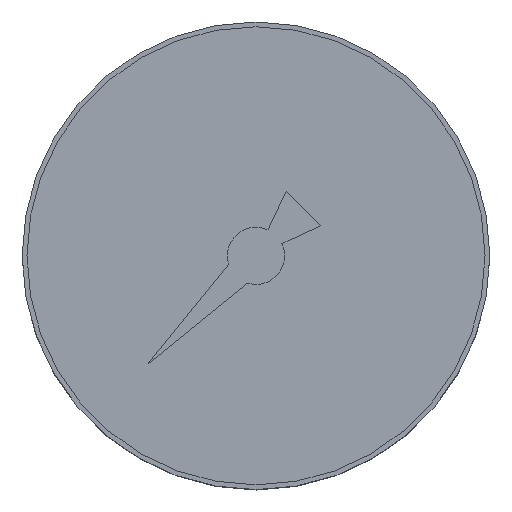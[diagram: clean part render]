
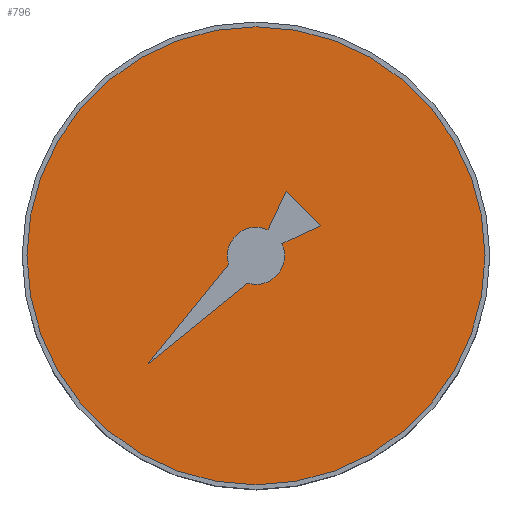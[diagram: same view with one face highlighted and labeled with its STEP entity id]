
A CAD part, top view. The second image highlights one B-rep face of the part: STEP entity #796.
In plain terms, the highlighted planar face has unit normal (0, 0, 1).
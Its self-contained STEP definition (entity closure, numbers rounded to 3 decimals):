
#223=CARTESIAN_POINT('',(0.,0.,44.));
#224=DIRECTION('',(0.,0.,1.));
#225=DIRECTION('',(0.,1.,0.));
#226=AXIS2_PLACEMENT_3D('',#223,#224,#225);
#232=CARTESIAN_POINT('',(0.,0.,44.));
#233=DIRECTION('',(0.,0.,-1.));
#234=DIRECTION('',(0.,1.,0.));
#235=AXIS2_PLACEMENT_3D('',#232,#233,#234);
#241=DIRECTION('',(-0.707,0.707,0.));
#242=VECTOR('',#241,5.096);
#243=CARTESIAN_POINT('',(6.751,3.148,44.));
#244=LINE('',#243,#242);
#245=DIRECTION('',(-0.423,-0.906,0.));
#246=VECTOR('',#245,4.449);
#247=CARTESIAN_POINT('',(3.148,6.751,44.));
#248=LINE('',#247,#246);
#249=CARTESIAN_POINT('',(0.,0.,44.));
#250=DIRECTION('',(0.,0.,1.));
#251=DIRECTION('',(0.423,0.906,0.));
#252=AXIS2_PLACEMENT_3D('',#249,#250,#251);
#254=DIRECTION('',(-0.629,-0.777,0.));
#255=VECTOR('',#254,13.422);
#256=CARTESIAN_POINT('',(-2.867,-0.883,44.));
#257=LINE('',#256,#255);
#258=DIRECTION('',(0.777,0.629,0.));
#259=VECTOR('',#258,13.422);
#260=CARTESIAN_POINT('',(-11.314,-11.314,44.));
#261=LINE('',#260,#259);
#262=CARTESIAN_POINT('',(0.,0.,44.));
#263=DIRECTION('',(0.,0.,1.));
#264=DIRECTION('',(-0.294,-0.956,0.));
#265=AXIS2_PLACEMENT_3D('',#262,#263,#264);
#267=DIRECTION('',(0.906,0.423,0.));
#268=VECTOR('',#267,4.449);
#269=CARTESIAN_POINT('',(2.719,1.268,44.));
#270=LINE('',#269,#268);
#369=CARTESIAN_POINT('',(0.,24.,44.));
#370=CARTESIAN_POINT('',(0.,-24.,44.));
#371=VERTEX_POINT('',#369);
#372=VERTEX_POINT('',#370);
#391=CARTESIAN_POINT('',(6.751,3.148,44.));
#392=CARTESIAN_POINT('',(3.148,6.751,44.));
#393=VERTEX_POINT('',#391);
#394=VERTEX_POINT('',#392);
#395=CARTESIAN_POINT('',(1.268,2.719,44.));
#396=VERTEX_POINT('',#395);
#397=CARTESIAN_POINT('',(-2.867,-0.883,44.));
#398=VERTEX_POINT('',#397);
#399=CARTESIAN_POINT('',(-11.314,-11.314,44.));
#400=VERTEX_POINT('',#399);
#401=CARTESIAN_POINT('',(-0.883,-2.867,44.));
#402=VERTEX_POINT('',#401);
#403=CARTESIAN_POINT('',(2.719,1.268,44.));
#404=VERTEX_POINT('',#403);
#771=CARTESIAN_POINT('',(0.,0.,44.));
#772=DIRECTION('',(0.,0.,1.));
#773=DIRECTION('',(0.,1.,0.));
#774=AXIS2_PLACEMENT_3D('',#771,#772,#773);
#775=PLANE('',#774);
#776=ORIENTED_EDGE('',*,*,#765,.T.);
#777=ORIENTED_EDGE('',*,*,#751,.F.);
#778=EDGE_LOOP('',(#776,#777));
#779=FACE_OUTER_BOUND('',#778,.F.);
#781=ORIENTED_EDGE('',*,*,#780,.T.);
#783=ORIENTED_EDGE('',*,*,#782,.T.);
#785=ORIENTED_EDGE('',*,*,#784,.T.);
#787=ORIENTED_EDGE('',*,*,#786,.T.);
#789=ORIENTED_EDGE('',*,*,#788,.T.);
#791=ORIENTED_EDGE('',*,*,#790,.T.);
#793=ORIENTED_EDGE('',*,*,#792,.T.);
#794=EDGE_LOOP('',(#781,#783,#785,#787,#789,#791,#793));
#795=FACE_BOUND('',#794,.F.);
#227=CIRCLE('',#226,24.);
#236=CIRCLE('',#235,24.);
#253=CIRCLE('',#252,3.);
#266=CIRCLE('',#265,3.);
#751=EDGE_CURVE('',#371,#372,#227,.T.);
#765=EDGE_CURVE('',#371,#372,#236,.T.);
#780=EDGE_CURVE('',#393,#394,#244,.T.);
#782=EDGE_CURVE('',#394,#396,#248,.T.);
#784=EDGE_CURVE('',#396,#398,#253,.T.);
#786=EDGE_CURVE('',#398,#400,#257,.T.);
#788=EDGE_CURVE('',#400,#402,#261,.T.);
#790=EDGE_CURVE('',#402,#404,#266,.T.);
#792=EDGE_CURVE('',#404,#393,#270,.T.);
#796=ADVANCED_FACE('',(#779,#795),#775,.T.);
